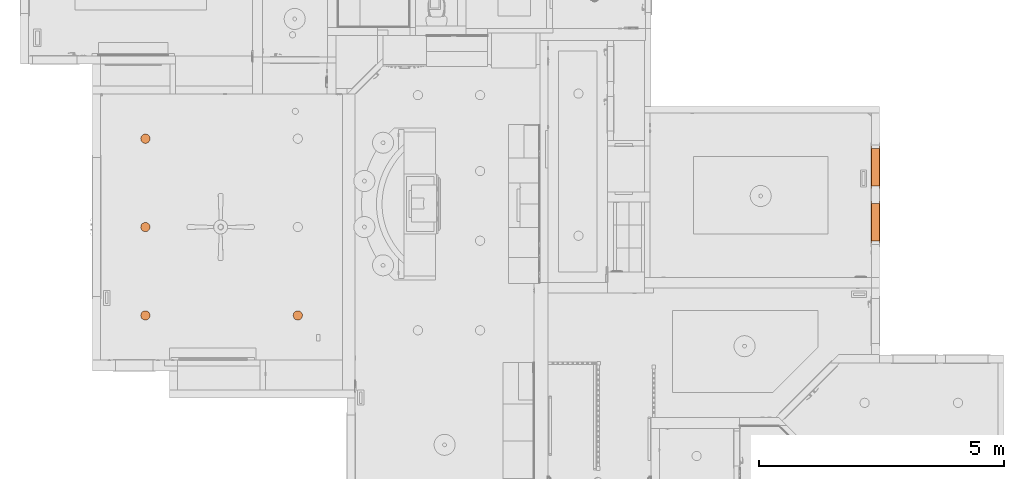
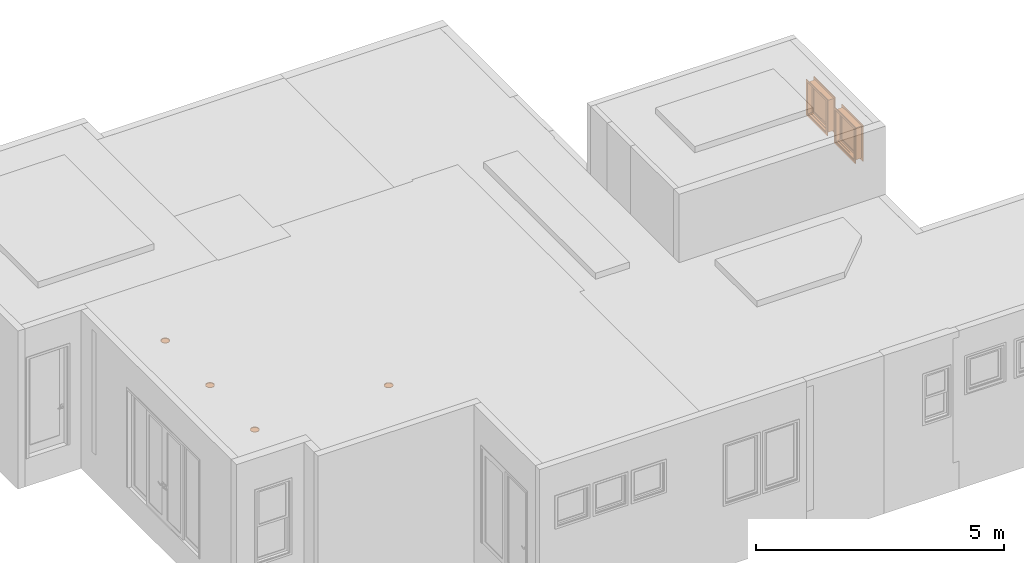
# One storey, part 69 of 103: 6 proxies.
"""IFC2X3 building model written with IfcOpenShell, lengths in inches."""

from ifc_helpers import new_model, entity, si_unit, converted_unit, derived_unit, money_unit, direction, frame, origin_with_axes, place, context, subcontext, project, spatial, open_shell, faceted_brep, surface_model, source, transform, mapped, type_object, element, save


model = new_model("IFC2X3")

# Units and contexts
model_context = context("Model", 3, precision=0.00039370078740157, world=origin_with_axes(), true_north=direction((0.0, 1.0)))
plan_context = context("Plan", 3, precision=0.00039370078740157, world=origin_with_axes(), true_north=direction((0.0, 1.0)))
body_context = subcontext(model_context, "Body", "Model", "MODEL_VIEW")
ifc_project = project(units=[converted_unit("LENGTHUNIT", "INCH", entity("IfcPositiveLengthMeasure", 0.0254), si_unit("LENGTHUNIT", "METRE"), dimensions=[1, 0, 0, 0, 0, 0, 0]), converted_unit("AREAUNIT", "SQUARE_FOOT", entity("IfcPositiveLengthMeasure", 0.09290304), si_unit("AREAUNIT", "SQUARE_METRE"), dimensions=[2, 0, 0, 0, 0, 0, 0]), si_unit("PLANEANGLEUNIT", "RADIAN"), si_unit("SOLIDANGLEUNIT", "STERADIAN"), money_unit("USD"), converted_unit("TIMEUNIT", "Year", entity("IfcTimeMeasure", 31557600.0), si_unit("TIMEUNIT", "SECOND"), dimensions=[0, 0, 1, 0, 0, 0, 0]), si_unit("MASSUNIT", "GRAM", prefix="KILO"), si_unit("THERMODYNAMICTEMPERATUREUNIT", "DEGREE_CELSIUS"), si_unit("LUMINOUSINTENSITYUNIT", "LUMEN"), si_unit("ENERGYUNIT", "JOULE", prefix="MEGA"), derived_unit("SPECIFICHEATCAPACITYUNIT", [(si_unit("ENERGYUNIT", "JOULE"), 1), (si_unit("MASSUNIT", "GRAM", prefix="KILO"), -1), (si_unit("THERMODYNAMICTEMPERATUREUNIT", "KELVIN"), -1)])], contexts=[model_context, plan_context])

# Site, building, storey
site_placement = place(None, origin_with_axes())
site = spatial("IfcSite", under=ifc_project, at=site_placement, Name="Site", CompositionType="ELEMENT")
building_placement = place(site_placement, origin_with_axes())
building = spatial("IfcBuilding", under=site, at=building_placement, Name="Building", CompositionType="ELEMENT")
storey_placement = place(building_placement, frame((0.0, 0.0, 127.9999999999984), z_axis=(0.0, 0.0, 1.0), x_axis=(1.0, 0.0, 0.0)))
storey = spatial("IfcBuildingStorey", under=building, at=storey_placement, Name="Second Floor", CompositionType="ELEMENT", Elevation=128.0)

# Proxies
building_element_proxy_type_1 = type_object("IfcBuildingElementProxyType", Name="Recessed Spot", PredefinedType="NOTDEFINED")
shared_shape_1 = source(origin_with_axes(), body_context, "Body", "SurfaceModel", [
    faceted_brep([(3.749999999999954, 0.0, -0.4999999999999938), (3.523847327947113, 1.282575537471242, -0.4999999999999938), (3.523847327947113, 1.282575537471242, 0.0), (3.749999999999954, 0.0, 0.0), (3.523847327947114, -1.282575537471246, -0.4999999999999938), (2.872666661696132, -2.410453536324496, -0.4999999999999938), (1.874999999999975, -3.247595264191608, -0.4999999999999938), (0.6511806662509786, -3.693029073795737, -0.4999999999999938), (-0.6511806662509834, -3.693029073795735, -0.4999999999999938), (-1.87499999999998, -3.247595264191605, -0.4999999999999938), (-2.872666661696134, -2.410453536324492, -0.4999999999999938), (-3.523847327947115, -1.282575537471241, -0.4999999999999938), (-3.749999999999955, 0.0, -0.4999999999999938), (-3.523847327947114, 1.282575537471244, -0.4999999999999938), (-2.872666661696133, 2.410453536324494, -0.4999999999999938), (-1.874999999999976, 3.247595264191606, -0.4999999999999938), (-0.6511806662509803, 3.693029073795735, -0.4999999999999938), (0.6511806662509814, 3.693029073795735, -0.4999999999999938), (1.874999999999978, 3.247595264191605, -0.4999999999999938), (2.872666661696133, 2.410453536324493, -0.4999999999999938), (3.24999999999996, 0.0, -0.4999999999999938), (3.054001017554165, 1.11156546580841, -0.4999999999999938), (2.489644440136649, 2.089059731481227, -0.4999999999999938), (1.62499999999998, 2.814582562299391, -0.4999999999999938), (0.5643565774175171, 3.200625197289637, -0.4999999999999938), (-0.5643565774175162, 3.200625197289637, -0.4999999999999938), (-1.62499999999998, 2.814582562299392, -0.4999999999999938), (-2.489644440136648, 2.089059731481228, -0.4999999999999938), (-3.054001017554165, 1.111565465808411, -0.4999999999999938), (-3.24999999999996, 0.0, -0.4999999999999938), (-3.054001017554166, -1.111565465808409, -0.4999999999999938), (-2.48964444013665, -2.089059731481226, -0.4999999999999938), (-1.624999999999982, -2.814582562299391, -0.4999999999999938), (-0.5643565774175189, -3.200625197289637, -0.4999999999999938), (0.5643565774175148, -3.200625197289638, -0.4999999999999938), (1.624999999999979, -2.814582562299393, -0.4999999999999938), (2.489644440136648, -2.08905973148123, -0.4999999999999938), (3.054001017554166, -1.111565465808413, -0.4999999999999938), (2.872666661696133, 2.410453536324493, 0.0), (1.874999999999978, 3.247595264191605, 0.0), (0.6511806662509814, 3.693029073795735, 0.0), (-0.6511806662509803, 3.693029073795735, 0.0), (-1.874999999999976, 3.247595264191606, 0.0), (-2.872666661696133, 2.410453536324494, 0.0), (-3.523847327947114, 1.282575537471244, 0.0), (-3.749999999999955, 0.0, 0.0), (-3.523847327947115, -1.282575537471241, 0.0), (-2.872666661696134, -2.410453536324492, 0.0), (-1.87499999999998, -3.247595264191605, 0.0), (-0.6511806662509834, -3.693029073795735, 0.0), (0.6511806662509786, -3.693029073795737, 0.0), (1.874999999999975, -3.247595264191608, 0.0), (2.872666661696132, -2.410453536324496, 0.0), (3.523847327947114, -1.282575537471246, 0.0), (3.24999999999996, 0.0, 0.0), (3.054001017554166, -1.111565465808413, 0.0), (2.489644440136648, -2.08905973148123, 0.0), (1.624999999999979, -2.814582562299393, 0.0), (0.5643565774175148, -3.200625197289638, 0.0), (-0.5643565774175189, -3.200625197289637, 0.0), (-1.624999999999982, -2.814582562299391, 0.0), (-2.48964444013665, -2.089059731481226, 0.0), (-3.054001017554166, -1.111565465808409, 0.0), (-3.24999999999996, 0.0, 0.0), (-3.054001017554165, 1.111565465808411, 0.0), (-2.489644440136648, 2.089059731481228, 0.0), (-1.62499999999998, 2.814582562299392, 0.0), (-0.5643565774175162, 3.200625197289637, 0.0), (0.5643565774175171, 3.200625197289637, 0.0), (1.62499999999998, 2.814582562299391, 0.0), (2.489644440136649, 2.089059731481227, 0.0), (3.054001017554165, 1.11156546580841, 0.0)], [[[0, 1, 2, 3]], [[0, 4, 5, 6, 7, 8, 9, 10, 11, 12, 13, 14, 15, 16, 17, 18, 19, 1], [20, 21, 22, 23, 24, 25, 26, 27, 28, 29, 30, 31, 32, 33, 34, 35, 36, 37]], [[1, 19, 38, 2]], [[3, 2, 38, 39, 40, 41, 42, 43, 44, 45, 46, 47, 48, 49, 50, 51, 52, 53], [54, 55, 56, 57, 58, 59, 60, 61, 62, 63, 64, 65, 66, 67, 68, 69, 70, 71]], [[4, 0, 3, 53]], [[5, 4, 53, 52]], [[6, 5, 52, 51]], [[7, 6, 51, 50]], [[8, 7, 50, 49]], [[9, 8, 49, 48]], [[10, 9, 48, 47]], [[11, 10, 47, 46]], [[12, 11, 46, 45]], [[13, 12, 45, 44]], [[14, 13, 44, 43]], [[15, 14, 43, 42]], [[16, 15, 42, 41]], [[17, 16, 41, 40]], [[18, 17, 40, 39]], [[19, 18, 39, 38]], [[21, 20, 54, 71]], [[22, 21, 71, 70]], [[23, 22, 70, 69]], [[24, 23, 69, 68]], [[25, 24, 68, 67]], [[26, 25, 67, 66]], [[27, 26, 66, 65]], [[28, 27, 65, 64]], [[29, 28, 64, 63]], [[30, 29, 63, 62]], [[31, 30, 62, 61]], [[32, 31, 61, 60]], [[33, 32, 60, 59]], [[34, 33, 59, 58]], [[35, 34, 58, 57]], [[36, 35, 57, 56]], [[37, 36, 56, 55]], [[20, 37, 55, 54]]]),
    surface_model("IfcShellBasedSurfaceModel", [(3.24999999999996, 0.0, -0.4460629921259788), (3.054001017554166, -1.111565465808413, -0.4460629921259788), (2.489644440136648, -2.08905973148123, -0.4460629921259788), (1.624999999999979, -2.814582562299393, -0.4460629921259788), (0.5643565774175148, -3.200625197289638, -0.4460629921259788), (-0.5643565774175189, -3.200625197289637, -0.4460629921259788), (-1.624999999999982, -2.814582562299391, -0.4460629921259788), (-2.48964444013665, -2.089059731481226, -0.4460629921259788), (-3.054001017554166, -1.111565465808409, -0.4460629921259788), (-3.24999999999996, 0.0, -0.4460629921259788), (-3.054001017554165, 1.111565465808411, -0.4460629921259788), (-2.489644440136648, 2.089059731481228, -0.4460629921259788), (-1.62499999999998, 2.814582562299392, -0.4460629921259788), (-0.5643565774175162, 3.200625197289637, -0.4460629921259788), (0.5643565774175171, 3.200625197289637, -0.4460629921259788), (1.62499999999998, 2.814582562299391, -0.4460629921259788), (2.489644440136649, 2.089059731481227, -0.4460629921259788), (3.054001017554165, 1.11156546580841, -0.4460629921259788)], [open_shell([[[0, 1, 2, 3, 4, 5, 6, 7, 8, 9, 10, 11, 12, 13, 14, 15, 16, 17]]])]),
])
for number, where, z_axis, x_axis, name in (
    (1, (-162.0003594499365, 312.5000726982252, 118.4999999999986), (0.0, 0.0, 1.0), (0.9999999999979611, 2.01938114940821e-06, 0.0), "L-03"),
    (2, (-162.0000726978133, 170.5000726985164, 118.4999999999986), (0.0, 0.0, 1.0), (0.9999999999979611, 2.01938114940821e-06, 0.0), "L-03"),
    (3, (-162.000216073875, 241.5000726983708, 118.4999999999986), (0.0, 0.0, 1.0), (0.9999999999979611, 2.01938114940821e-06, 0.0), "L-03"),
    (4, (-39.50007269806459, 170.5003200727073, 118.4999999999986), (0.0, 0.0, 1.0), (0.9999999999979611, 2.01938114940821e-06, 0.0), "L-03"),
):
    element("IfcBuildingElementProxy", number, at=place(storey_placement, frame(where, z_axis=z_axis, x_axis=x_axis)), inside=storey, type_object=building_element_proxy_type_1, Name=name, context=body_context, shape_type="MappedRepresentation", body=[
        mapped(shared_shape_1, transform((0.0, 0.0, 0.0))),
    ])
building_element_proxy_type_2 = type_object("IfcBuildingElementProxyType", Name="W Fixed", PredefinedType="NOTDEFINED")
shared_shape_2 = source(origin_with_axes(), body_context, "Body", "Brep", [
    faceted_brep([(-14.99999999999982, -4.499999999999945, 0.0), (14.99999999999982, -4.499999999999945, 0.0), (14.99999999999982, -6.49999999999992, 0.0), (-14.99999999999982, -6.49999999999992, 0.0), (-14.99999999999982, -4.499999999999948, 30.99999999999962), (14.99999999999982, -4.499999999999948, 30.99999999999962), (-14.49999999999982, -4.499999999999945, 0.4999999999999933), (14.49999999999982, -4.499999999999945, 0.4999999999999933), (14.49999999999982, -4.499999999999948, 30.49999999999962), (-14.49999999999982, -4.499999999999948, 30.49999999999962), (14.99999999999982, -6.499999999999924, 30.99999999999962), (-14.99999999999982, -6.499999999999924, 30.99999999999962), (-14.49999999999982, -6.49999999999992, 0.4999999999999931), (-14.49999999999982, -6.499999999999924, 30.49999999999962), (14.49999999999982, -6.499999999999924, 30.49999999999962), (14.49999999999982, -6.49999999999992, 0.4999999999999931)], [[[0, 1, 2, 3]], [[0, 4, 5, 1], [6, 7, 8, 9]], [[1, 5, 10, 2]], [[3, 2, 10, 11], [12, 13, 14, 15]], [[4, 0, 3, 11]], [[5, 4, 11, 10]], [[7, 6, 12, 15]], [[8, 7, 15, 14]], [[9, 8, 14, 13]], [[6, 9, 13, 12]]]),
    faceted_brep([(-16.99999999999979, -6.999999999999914, -1.999999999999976), (-16.99999999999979, -6.499999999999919, -1.999999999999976), (-14.99999999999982, -6.49999999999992, 0.0), (-14.99999999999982, -6.999999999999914, 0.0), (-16.99999999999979, -6.999999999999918, 32.99999999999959), (-16.99999999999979, -6.499999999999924, 32.99999999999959), (-14.99999999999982, -6.499999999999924, 30.99999999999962), (-14.99999999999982, -6.999999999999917, 30.99999999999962)], [[[0, 1, 2, 3]], [[4, 5, 1, 0]], [[1, 5, 6, 2]], [[3, 2, 6, 7]], [[0, 3, 7, 4]], [[7, 6, 5, 4]]]),
    faceted_brep([(16.99999999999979, -6.999999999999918, 32.99999999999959), (16.99999999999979, -6.499999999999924, 32.99999999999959), (14.99999999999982, -6.499999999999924, 30.99999999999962), (14.99999999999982, -6.999999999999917, 30.99999999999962), (16.99999999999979, -6.999999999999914, -1.999999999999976), (16.99999999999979, -6.499999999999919, -1.999999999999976), (14.99999999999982, -6.49999999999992, 0.0), (14.99999999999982, -6.999999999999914, 0.0)], [[[0, 1, 2, 3]], [[4, 5, 1, 0]], [[1, 5, 6, 2]], [[3, 2, 6, 7]], [[0, 3, 7, 4]], [[7, 6, 5, 4]]]),
    faceted_brep([(16.99999999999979, -6.999999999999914, -1.999999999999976), (16.99999999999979, -6.499999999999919, -1.999999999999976), (14.99999999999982, -6.49999999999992, 0.0), (14.99999999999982, -6.999999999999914, 0.0), (-16.99999999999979, -6.999999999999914, -1.999999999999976), (-16.99999999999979, -6.499999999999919, -1.999999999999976), (-14.99999999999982, -6.49999999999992, 0.0), (-14.99999999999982, -6.999999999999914, 0.0)], [[[0, 1, 2, 3]], [[4, 5, 1, 0]], [[1, 5, 6, 2]], [[3, 2, 6, 7]], [[0, 3, 7, 4]], [[7, 6, 5, 4]]]),
    faceted_brep([(-16.99999999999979, -6.999999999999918, 32.99999999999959), (-16.99999999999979, -6.499999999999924, 32.99999999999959), (-14.99999999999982, -6.499999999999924, 30.99999999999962), (-14.99999999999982, -6.999999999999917, 30.99999999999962), (16.99999999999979, -6.999999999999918, 32.99999999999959), (16.99999999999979, -6.499999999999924, 32.99999999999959), (14.99999999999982, -6.499999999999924, 30.99999999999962), (14.99999999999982, -6.999999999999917, 30.99999999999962)], [[[0, 1, 2, 3]], [[4, 5, 1, 0]], [[1, 5, 6, 2]], [[3, 2, 6, 7]], [[0, 3, 7, 4]], [[7, 6, 5, 4]]]),
    faceted_brep([(-16.99999999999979, 0.4999999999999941, -2.249999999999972), (-14.99999999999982, 0.4999999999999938, -0.2499999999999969), (-14.99999999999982, 0.0, -0.249999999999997), (-16.99999999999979, 0.0, -2.249999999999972), (-16.99999999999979, 0.4999999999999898, 32.99999999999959), (-14.99999999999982, 0.49999999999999, 30.99999999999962), (-14.99999999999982, 0.0, 30.99999999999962), (-16.99999999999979, 0.0, 32.99999999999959)], [[[0, 1, 2, 3]], [[0, 4, 5, 1]], [[1, 5, 6, 2]], [[3, 2, 6, 7]], [[4, 0, 3, 7]], [[5, 4, 7, 6]]]),
    faceted_brep([(16.99999999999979, 0.4999999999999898, 32.99999999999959), (14.99999999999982, 0.49999999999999, 30.99999999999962), (14.99999999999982, 0.0, 30.99999999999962), (16.99999999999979, 0.0, 32.99999999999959), (16.99999999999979, 0.4999999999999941, -2.249999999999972), (14.99999999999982, 0.4999999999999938, -0.2499999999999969), (14.99999999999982, 0.0, -0.249999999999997), (16.99999999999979, 0.0, -2.249999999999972)], [[[0, 1, 2, 3]], [[0, 4, 5, 1]], [[1, 5, 6, 2]], [[3, 2, 6, 7]], [[4, 0, 3, 7]], [[5, 4, 7, 6]]]),
    faceted_brep([(16.99999999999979, 0.4999999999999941, -2.249999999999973), (14.99999999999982, 0.4999999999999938, -0.2499999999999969), (14.99999999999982, 0.0, -0.249999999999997), (16.99999999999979, 0.0, -2.249999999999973), (-16.99999999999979, 0.4999999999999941, -2.249999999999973), (-14.99999999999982, 0.4999999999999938, -0.2499999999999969), (-14.99999999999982, 0.0, -0.249999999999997), (-16.99999999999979, 0.0, -2.249999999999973)], [[[0, 1, 2, 3]], [[0, 4, 5, 1]], [[1, 5, 6, 2]], [[3, 2, 6, 7]], [[4, 0, 3, 7]], [[5, 4, 7, 6]]]),
    faceted_brep([(-16.99999999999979, 0.4999999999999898, 32.99999999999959), (-14.99999999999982, 0.49999999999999, 30.99999999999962), (-14.99999999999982, 0.0, 30.99999999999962), (-16.99999999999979, 0.0, 32.99999999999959), (16.99999999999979, 0.4999999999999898, 32.99999999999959), (14.99999999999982, 0.49999999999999, 30.99999999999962), (14.99999999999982, 0.0, 30.99999999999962), (16.99999999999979, 0.0, 32.99999999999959)], [[[0, 1, 2, 3]], [[0, 4, 5, 1]], [[1, 5, 6, 2]], [[3, 2, 6, 7]], [[4, 0, 3, 7]], [[5, 4, 7, 6]]]),
    faceted_brep([(-14.50039370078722, -4.499999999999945, 0.7539370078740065), (-14.50039370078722, -4.499999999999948, 30.49606299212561), (-14.99999999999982, -4.499999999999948, 30.49606299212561), (-14.99999999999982, -4.499999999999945, 0.7539370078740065), (-14.50039370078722, -2.749999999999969, 30.49606299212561), (-14.50039370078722, -2.749999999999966, 0.7539370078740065), (-14.74999999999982, -2.749999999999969, 30.49606299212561), (-14.74999999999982, 0.0, 30.49606299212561), (-14.99999999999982, 0.0, 30.49606299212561), (-14.99999999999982, 0.0, 0.7539370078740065), (-14.74999999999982, 0.0, 0.7539370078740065), (-14.74999999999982, -2.749999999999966, 0.7539370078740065)], [[[0, 1, 2, 3]], [[4, 1, 0, 5]], [[1, 4, 6, 7, 8, 2]], [[9, 3, 2, 8]], [[5, 0, 3, 9, 10, 11]], [[4, 5, 11, 6]], [[11, 10, 7, 6]], [[9, 8, 7, 10]]]),
    faceted_brep([(14.50039370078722, -2.749999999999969, 30.49606299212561), (14.50039370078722, -4.499999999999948, 30.49606299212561), (14.99999999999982, -4.499999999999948, 30.49606299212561), (14.99999999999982, 0.0, 30.49606299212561), (14.74999999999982, 0.0, 30.49606299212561), (14.74999999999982, -2.749999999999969, 30.49606299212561), (14.50039370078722, -4.499999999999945, 0.7539370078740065), (14.50039370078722, -2.749999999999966, 0.7539370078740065), (14.99999999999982, -4.499999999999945, 0.7539370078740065), (14.99999999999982, 0.0, 0.7539370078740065), (14.74999999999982, 0.0, 0.7539370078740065), (14.74999999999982, -2.749999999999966, 0.7539370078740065)], [[[0, 1, 2, 3, 4, 5]], [[6, 1, 0, 7]], [[1, 6, 8, 2]], [[3, 2, 8, 9]], [[3, 9, 10, 4]], [[11, 5, 4, 10]], [[7, 0, 5, 11]], [[6, 7, 11, 10, 9, 8]]]),
    faceted_brep([(14.50039370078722, -2.749999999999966, 0.7539370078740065), (14.50039370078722, -4.499999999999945, 0.7539370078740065), (14.99999999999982, -4.499999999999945, 0.7539370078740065), (14.99999999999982, 0.0, 0.7539370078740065), (14.74999999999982, 0.0, 0.7539370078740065), (14.74999999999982, -2.749999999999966, 0.7539370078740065), (14.50039370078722, -4.499999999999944, 0.7496062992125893), (14.50039370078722, -2.749999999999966, 0.7496062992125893), (-14.50039370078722, -4.499999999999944, 0.7496062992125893), (-14.50039370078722, -4.499999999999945, 0.7539370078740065), (-14.99999999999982, -4.499999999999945, 0.7539370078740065), (-14.99999999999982, -4.499999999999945, 0.0), (14.99999999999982, -4.499999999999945, 0.0), (14.99999999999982, 0.0, 0.0), (-14.99999999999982, 0.0, 0.0), (-14.99999999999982, 0.0, 0.7539370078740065), (-14.74999999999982, 0.0, 0.7539370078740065), (-14.74999999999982, 0.0, 0.4999999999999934), (14.74999999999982, 0.0, 0.4999999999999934), (14.74999999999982, -2.749999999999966, 0.4999999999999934), (-14.74999999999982, -2.749999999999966, 0.4999999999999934), (-14.74999999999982, -2.749999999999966, 0.7539370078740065), (-14.50039370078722, -2.749999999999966, 0.7539370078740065), (-14.50039370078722, -2.749999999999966, 0.7496062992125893)], [[[0, 1, 2, 3, 4, 5]], [[6, 1, 0, 7]], [[8, 9, 10, 11, 12, 2, 1, 6]], [[3, 2, 12, 13]], [[14, 15, 16, 17, 18, 4, 3, 13]], [[19, 5, 4, 18]], [[7, 0, 5, 19, 20, 21, 22, 23]], [[8, 6, 7, 23]], [[22, 9, 8, 23]], [[9, 22, 21, 16, 15, 10]], [[14, 11, 10, 15]], [[13, 12, 11, 14]], [[20, 17, 16, 21]], [[20, 19, 18, 17]]]),
    faceted_brep([(-14.50039370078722, -4.499999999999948, 30.49606299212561), (-14.50039370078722, -4.499999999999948, 30.50039370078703), (14.50039370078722, -4.499999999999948, 30.50039370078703), (14.50039370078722, -4.499999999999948, 30.49606299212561), (14.99999999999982, -4.499999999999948, 30.49606299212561), (14.99999999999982, -4.499999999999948, 30.99999999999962), (-14.99999999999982, -4.499999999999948, 30.99999999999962), (-14.99999999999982, -4.499999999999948, 30.49606299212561), (-14.50039370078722, -2.749999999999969, 30.49606299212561), (-14.50039370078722, -2.749999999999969, 30.50039370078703), (14.50039370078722, -2.749999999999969, 30.50039370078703), (14.50039370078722, -2.749999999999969, 30.49606299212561), (14.74999999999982, -2.749999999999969, 30.49606299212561), (14.74999999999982, 0.0, 30.49606299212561), (14.99999999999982, 0.0, 30.49606299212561), (14.99999999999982, 0.0, 30.99999999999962), (-14.99999999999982, 0.0, 30.99999999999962), (-14.99999999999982, 0.0, 30.49606299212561), (-14.74999999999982, 0.0, 30.49606299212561), (-14.74999999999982, -2.749999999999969, 30.49606299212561), (-14.74999999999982, -2.749999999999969, 30.74999999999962), (14.74999999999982, -2.749999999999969, 30.74999999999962), (14.74999999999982, 0.0, 30.74999999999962), (-14.74999999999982, 0.0, 30.74999999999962)], [[[0, 1, 2, 3, 4, 5, 6, 7]], [[1, 0, 8, 9]], [[2, 1, 9, 10]], [[3, 2, 10, 11]], [[3, 11, 12, 13, 14, 4]], [[15, 5, 4, 14]], [[16, 6, 5, 15]], [[17, 7, 6, 16]], [[8, 0, 7, 17, 18, 19]], [[9, 8, 19, 20, 21, 12, 11, 10]], [[12, 21, 22, 13]], [[13, 22, 23, 18, 17, 16, 15, 14]], [[20, 19, 18, 23]], [[21, 20, 23, 22]]]),
    faceted_brep([(-12.74999999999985, -2.749999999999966, 2.499999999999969), (-12.74999999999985, -1.874999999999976, 2.499999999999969), (-12.74999999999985, -1.874999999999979, 28.74999999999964), (-12.74999999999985, -2.749999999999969, 28.74999999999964), (-14.74999999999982, -2.749999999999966, 2.499999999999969), (-14.74999999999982, -1.874999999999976, 2.499999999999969), (-14.74999999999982, -1.874999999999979, 28.74999999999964), (-14.74999999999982, -2.749999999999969, 28.74999999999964)], [[[0, 1, 2, 3]], [[4, 5, 1, 0]], [[1, 5, 6, 2]], [[3, 2, 6, 7]], [[0, 3, 7, 4]], [[7, 6, 5, 4]]]),
    faceted_brep([(14.74999999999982, -2.749999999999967, 2.499999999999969), (14.74999999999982, -1.874999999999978, 2.499999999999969), (14.74999999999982, -1.874999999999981, 28.74999999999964), (14.74999999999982, -2.749999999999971, 28.74999999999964), (12.74999999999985, -2.749999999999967, 2.499999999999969), (12.74999999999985, -1.874999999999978, 2.499999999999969), (12.74999999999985, -1.874999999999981, 28.74999999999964), (12.74999999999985, -2.749999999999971, 28.74999999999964)], [[[0, 1, 2, 3]], [[4, 5, 1, 0]], [[1, 5, 6, 2]], [[3, 2, 6, 7]], [[0, 3, 7, 4]], [[7, 6, 5, 4]]]),
    faceted_brep([(14.74999999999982, -2.749999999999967, 0.4999999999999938), (14.74999999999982, -1.874999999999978, 0.4999999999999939), (14.74999999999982, -1.874999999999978, 2.499999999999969), (14.74999999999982, -2.749999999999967, 2.499999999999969), (-14.74999999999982, -2.749999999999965, 0.4999999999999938), (-14.74999999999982, -1.874999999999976, 0.4999999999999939), (-14.74999999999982, -1.874999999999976, 2.499999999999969), (-12.74999999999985, -1.874999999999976, 2.499999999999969), (-0.9999999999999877, -1.874999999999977, 2.499999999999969), (0.9999999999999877, -1.874999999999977, 2.499999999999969), (12.74999999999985, -1.874999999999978, 2.499999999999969), (12.74999999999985, -2.749999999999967, 2.499999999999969), (0.9999999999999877, -2.749999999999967, 2.499999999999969), (-0.9999999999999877, -2.749999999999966, 2.499999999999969), (-12.74999999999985, -2.749999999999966, 2.499999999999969), (-14.74999999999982, -2.749999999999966, 2.499999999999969)], [[[0, 1, 2, 3]], [[4, 5, 1, 0]], [[1, 5, 6, 7, 8, 9, 10, 2]], [[3, 2, 10, 11]], [[0, 3, 11, 12, 13, 14, 15, 4]], [[15, 6, 5, 4]], [[14, 7, 6, 15]], [[13, 8, 7, 14]], [[12, 9, 8, 13]], [[11, 10, 9, 12]]]),
    faceted_brep([(-14.74999999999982, -2.749999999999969, 30.74999999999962), (-14.74999999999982, -1.87499999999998, 30.74999999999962), (-14.74999999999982, -1.874999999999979, 28.74999999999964), (-14.74999999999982, -2.749999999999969, 28.74999999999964), (14.74999999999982, -2.749999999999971, 30.74999999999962), (14.74999999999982, -1.874999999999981, 30.74999999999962), (14.74999999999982, -1.874999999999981, 28.74999999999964), (12.74999999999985, -1.874999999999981, 28.74999999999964), (0.9999999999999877, -1.87499999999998, 28.74999999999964), (-0.9999999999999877, -1.87499999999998, 28.74999999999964), (-12.74999999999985, -1.874999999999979, 28.74999999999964), (-12.74999999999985, -2.749999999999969, 28.74999999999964), (-0.9999999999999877, -2.749999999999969, 28.74999999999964), (0.9999999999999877, -2.749999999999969, 28.74999999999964), (12.74999999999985, -2.749999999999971, 28.74999999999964), (14.74999999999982, -2.749999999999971, 28.74999999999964)], [[[0, 1, 2, 3]], [[4, 5, 1, 0]], [[1, 5, 6, 7, 8, 9, 10, 2]], [[3, 2, 10, 11]], [[0, 3, 11, 12, 13, 14, 15, 4]], [[15, 6, 5, 4]], [[14, 7, 6, 15]], [[13, 8, 7, 14]], [[12, 9, 8, 13]], [[11, 10, 9, 12]]]),
    faceted_brep([(-12.74999999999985, -1.874999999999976, 2.499999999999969), (-12.74999999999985, -0.9999999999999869, 2.499999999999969), (-12.74999999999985, -0.9999999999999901, 28.74999999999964), (-12.74999999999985, -1.874999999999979, 28.74999999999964), (-14.74999999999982, -1.874999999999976, 2.499999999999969), (-14.74999999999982, -0.9999999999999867, 2.499999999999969), (-14.74999999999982, -0.9999999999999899, 28.74999999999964), (-14.74999999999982, -1.874999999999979, 28.74999999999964)], [[[0, 1, 2, 3]], [[4, 5, 1, 0]], [[1, 5, 6, 2]], [[3, 2, 6, 7]], [[0, 3, 7, 4]], [[7, 6, 5, 4]]]),
    faceted_brep([(14.74999999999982, -1.874999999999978, 2.499999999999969), (14.74999999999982, -0.9999999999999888, 2.499999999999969), (14.74999999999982, -0.9999999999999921, 28.74999999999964), (14.74999999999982, -1.874999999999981, 28.74999999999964), (12.74999999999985, -1.874999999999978, 2.499999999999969), (12.74999999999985, -0.9999999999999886, 2.499999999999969), (12.74999999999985, -0.9999999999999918, 28.74999999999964), (12.74999999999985, -1.874999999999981, 28.74999999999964)], [[[0, 1, 2, 3]], [[4, 5, 1, 0]], [[1, 5, 6, 2]], [[3, 2, 6, 7]], [[0, 3, 7, 4]], [[7, 6, 5, 4]]]),
    faceted_brep([(14.74999999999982, -1.874999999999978, 0.4999999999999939), (14.74999999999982, -0.9999999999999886, 0.499999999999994), (14.74999999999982, -0.9999999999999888, 2.499999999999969), (14.74999999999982, -1.874999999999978, 2.499999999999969), (-14.74999999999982, -1.874999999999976, 0.4999999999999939), (-14.74999999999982, -0.9999999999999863, 0.499999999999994), (-14.74999999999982, -0.9999999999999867, 2.499999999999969), (-12.74999999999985, -0.9999999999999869, 2.499999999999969), (-0.9999999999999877, -0.9999999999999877, 2.499999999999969), (0.9999999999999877, -0.9999999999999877, 2.499999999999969), (12.74999999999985, -0.9999999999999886, 2.499999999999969), (12.74999999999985, -1.874999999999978, 2.499999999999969), (0.9999999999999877, -1.874999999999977, 2.499999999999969), (-0.9999999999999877, -1.874999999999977, 2.499999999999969), (-12.74999999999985, -1.874999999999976, 2.499999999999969), (-14.74999999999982, -1.874999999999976, 2.499999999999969)], [[[0, 1, 2, 3]], [[4, 5, 1, 0]], [[1, 5, 6, 7, 8, 9, 10, 2]], [[3, 2, 10, 11]], [[0, 3, 11, 12, 13, 14, 15, 4]], [[15, 6, 5, 4]], [[14, 7, 6, 15]], [[13, 8, 7, 14]], [[12, 9, 8, 13]], [[11, 10, 9, 12]]]),
    faceted_brep([(-14.74999999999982, -1.87499999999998, 30.74999999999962), (-14.74999999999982, -0.9999999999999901, 30.74999999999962), (-14.74999999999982, -0.9999999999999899, 28.74999999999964), (-14.74999999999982, -1.874999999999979, 28.74999999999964), (14.74999999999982, -1.874999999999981, 30.74999999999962), (14.74999999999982, -0.9999999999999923, 30.74999999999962), (14.74999999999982, -0.9999999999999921, 28.74999999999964), (12.74999999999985, -0.9999999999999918, 28.74999999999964), (0.9999999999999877, -0.999999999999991, 28.74999999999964), (-0.9999999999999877, -0.999999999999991, 28.74999999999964), (-12.74999999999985, -0.9999999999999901, 28.74999999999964), (-12.74999999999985, -1.874999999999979, 28.74999999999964), (-0.9999999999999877, -1.87499999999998, 28.74999999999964), (0.9999999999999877, -1.87499999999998, 28.74999999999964), (12.74999999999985, -1.874999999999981, 28.74999999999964), (14.74999999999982, -1.874999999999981, 28.74999999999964)], [[[0, 1, 2, 3]], [[4, 5, 1, 0]], [[1, 5, 6, 7, 8, 9, 10, 2]], [[3, 2, 10, 11]], [[0, 3, 11, 12, 13, 14, 15, 4]], [[15, 6, 5, 4]], [[14, 7, 6, 15]], [[13, 8, 7, 14]], [[12, 9, 8, 13]], [[11, 10, 9, 12]]]),
    faceted_brep([(-12.74999999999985, -1.999999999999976, 2.499999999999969), (-12.74999999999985, -1.749999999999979, 2.499999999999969), (12.74999999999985, -1.749999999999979, 2.499999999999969), (12.74999999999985, -1.999999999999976, 2.499999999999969), (-12.74999999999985, -1.999999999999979, 28.74999999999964), (-12.74999999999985, -1.749999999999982, 28.74999999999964), (12.74999999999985, -1.749999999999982, 28.74999999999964), (12.74999999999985, -1.999999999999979, 28.74999999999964)], [[[0, 1, 2, 3]], [[4, 5, 1, 0]], [[1, 5, 6, 2]], [[3, 2, 6, 7]], [[0, 3, 7, 4]], [[7, 6, 5, 4]]]),
])
for number, where, z_axis, x_axis, name in (
    (5, (421.4999999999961, 304.4934666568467, 137.9999999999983), (0.0, 0.0, 1.0), (0.0, -1.0, 0.0), "WD - 002"),
    (6, (421.4999999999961, 260.4934666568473, 137.9999999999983), (0.0, 0.0, 1.0), (0.0, -1.0, 0.0), "WD - 002"),
):
    element("IfcBuildingElementProxy", number, at=place(storey_placement, frame(where, z_axis=z_axis, x_axis=x_axis)), inside=storey, type_object=building_element_proxy_type_2, Name=name, context=body_context, shape_type="MappedRepresentation", body=[
        mapped(shared_shape_2, transform((14.99999999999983, 6.499999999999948, 0.0))),
    ])

save(model, "model.ifc")
